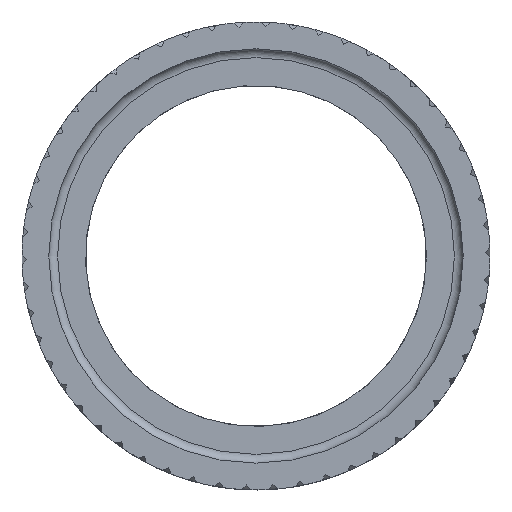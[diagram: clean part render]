
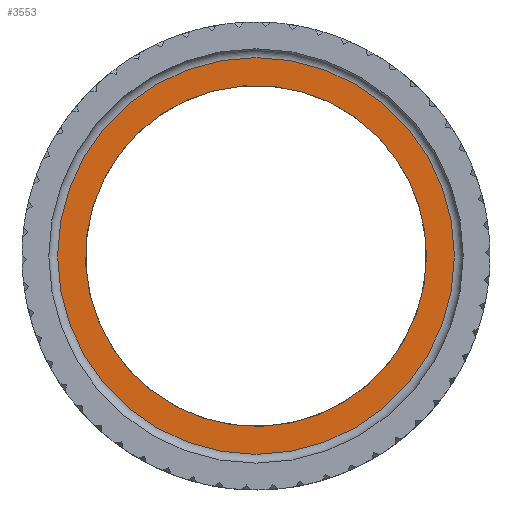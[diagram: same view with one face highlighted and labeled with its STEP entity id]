
A CAD part, top view. The second image highlights one B-rep face of the part: STEP entity #3553.
In plain terms, the highlighted planar face has unit normal (0, 0, 1).
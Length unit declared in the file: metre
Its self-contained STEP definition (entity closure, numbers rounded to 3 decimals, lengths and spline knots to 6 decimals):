
#682=ORIENTED_EDGE('',*,*,#1904,.T.);
#683=ORIENTED_EDGE('',*,*,#1905,.T.);
#1904=EDGE_CURVE('',#2515,#2515,#2925,.F.);
#1905=EDGE_CURVE('',#2516,#2516,#2926,.T.);
#2515=VERTEX_POINT('',#4398);
#2516=VERTEX_POINT('',#4400);
#2925=CIRCLE('',#3778,0.03375);
#2926=CIRCLE('',#3779,0.029);
#3043=EDGE_LOOP('',(#682));
#3044=EDGE_LOOP('',(#683));
#3264=FACE_BOUND('',#3043,.T.);
#3265=FACE_BOUND('',#3044,.T.);
#3485=PLANE('',#3777);
#3553=ADVANCED_FACE('',(#3264,#3265),#3485,.F.);
#3777=AXIS2_PLACEMENT_3D('',#4396,#3973,#3974);
#3778=AXIS2_PLACEMENT_3D('',#4397,#3975,#3976);
#3779=AXIS2_PLACEMENT_3D('',#4399,#3977,#3978);
#3973=DIRECTION('',(0.,0.,-1.));
#3974=DIRECTION('',(0.819,0.574,0.));
#3975=DIRECTION('',(0.,0.,-1.));
#3976=DIRECTION('',(1.,0.,0.));
#3977=DIRECTION('',(0.,0.,-1.));
#3978=DIRECTION('',(1.,0.,0.));
#4396=CARTESIAN_POINT('',(0.,0.,0.0708));
#4397=CARTESIAN_POINT('',(0.,0.,0.0708));
#4398=CARTESIAN_POINT('',(0.03375,0.,0.0708));
#4399=CARTESIAN_POINT('',(0.,0.,0.0708));
#4400=CARTESIAN_POINT('',(0.029,0.,0.0708));
